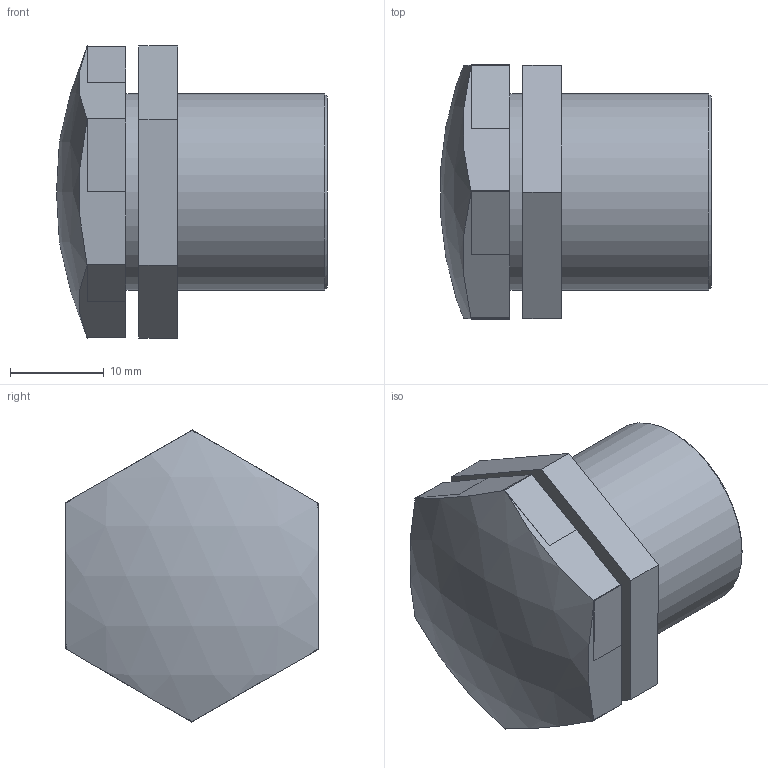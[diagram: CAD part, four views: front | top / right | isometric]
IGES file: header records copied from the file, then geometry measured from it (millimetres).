
Global section: file name: 051707005_0517070050A.ipt; native system: Autodesk Inventor 2015; preprocessor: unknown; author: Кирилл,,11,0; organization: 20170503.073136; date: 20170618.093331; units: millimetre
Bounding box: 28.93 x 27.11 x 31.18 mm (x, y, z)
Volume: 7184.8 mm3; surface area: 5114.2 mm2
Topology: 7 solids, 7 shells, 52 faces, 127 edges, 93 vertices
Faces by surface type: plane 40, revolution 8, cylinder 2, sphere 1, cone 1
Full cylindrical faces by diameter (mm): 20.955 x2
